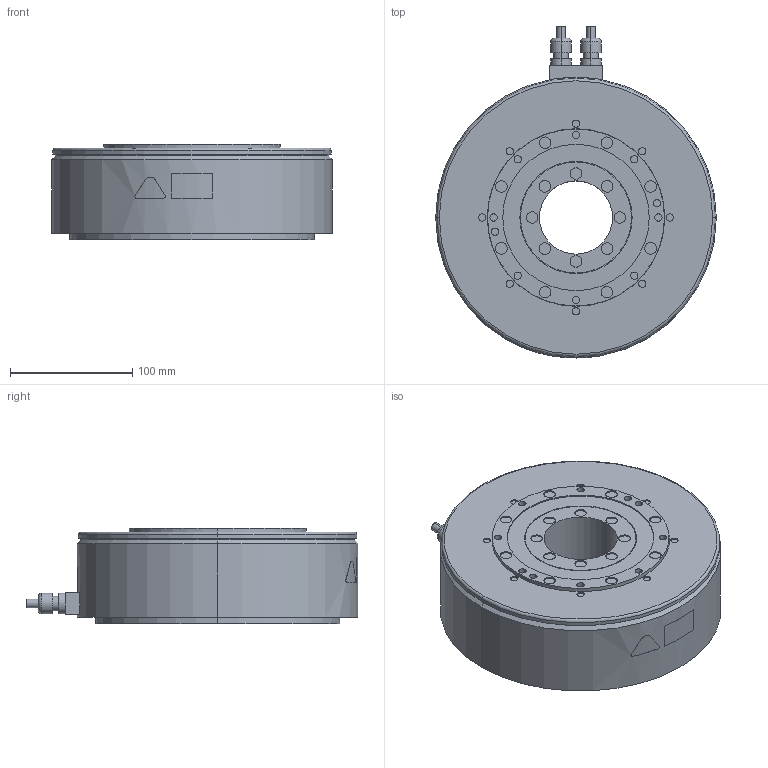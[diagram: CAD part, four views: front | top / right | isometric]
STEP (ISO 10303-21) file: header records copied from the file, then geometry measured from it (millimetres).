
FILE_DESCRIPTION (( 'STEP AP203' ), '1' );
FILE_NAME ('sgm7f_16d_a4_.STEP', '2016-02-25T00:57:35', ( '' ), ( '' ), 'SwSTEP 2.0', 'SolidWorks 2010', '' );
FILE_SCHEMA (( 'CONFIG_CONTROL_DESIGN' ));
Length unit declared in the file: millimetre
Products named in the file (1): sgm7f_16d_a4_
Bounding box: 230 x 272 x 78 mm (x, y, z)
Volume: 2881529.8 mm3; surface area: 159648.3 mm2
Topology: 1 solids, 1 shells, 263 faces, 534 edges, 352 vertices
Faces by surface type: cylinder 160, plane 88, torus 6, bspline 5, cone 4
Entity records: 7473 total; most frequent: CARTESIAN_POINT 1547, DIRECTION 1374, ORIENTED_EDGE 1068, AXIS2_PLACEMENT_3D 597, EDGE_CURVE 534, VERTEX_POINT 352, EDGE_LOOP 344, CIRCLE 338
